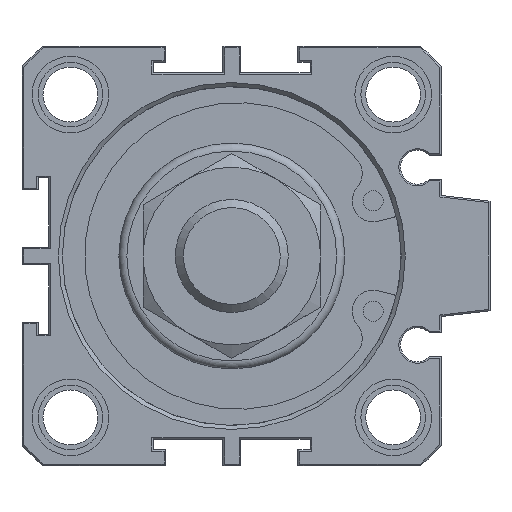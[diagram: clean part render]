
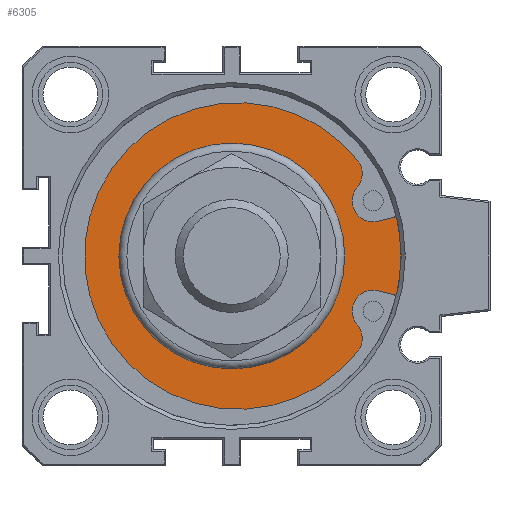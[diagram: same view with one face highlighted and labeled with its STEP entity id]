
A CAD part, front view. The second image highlights one B-rep face of the part: STEP entity #6305.
In plain terms, the highlighted planar face has unit normal (0, -1, 0).
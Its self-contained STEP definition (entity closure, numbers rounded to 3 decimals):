
#469=LINE('',#9123,#853);
#477=LINE('',#9149,#861);
#853=VECTOR('',#7829,1000.);
#861=VECTOR('',#7859,1000.);
#1938=ORIENTED_EDGE('',*,*,#2591,.F.);
#1939=ORIENTED_EDGE('',*,*,#2590,.F.);
#1940=ORIENTED_EDGE('',*,*,#2588,.T.);
#1941=ORIENTED_EDGE('',*,*,#2586,.T.);
#1942=ORIENTED_EDGE('',*,*,#2584,.T.);
#1943=ORIENTED_EDGE('',*,*,#2582,.T.);
#1944=ORIENTED_EDGE('',*,*,#2580,.T.);
#1945=ORIENTED_EDGE('',*,*,#2578,.T.);
#1946=ORIENTED_EDGE('',*,*,#2575,.T.);
#2575=EDGE_CURVE('',#2972,#2973,#469,.T.);
#2578=EDGE_CURVE('',#2974,#2972,#3129,.T.);
#2580=EDGE_CURVE('',#2975,#2974,#3130,.T.);
#2582=EDGE_CURVE('',#2976,#2975,#3131,.T.);
#2584=EDGE_CURVE('',#2977,#2976,#3132,.T.);
#2586=EDGE_CURVE('',#2978,#2977,#3133,.T.);
#2588=EDGE_CURVE('',#2979,#2978,#477,.T.);
#2590=EDGE_CURVE('',#2979,#2973,#3134,.T.);
#2591=EDGE_CURVE('',#2980,#2980,#3135,.F.);
#2972=VERTEX_POINT('',#9124);
#2973=VERTEX_POINT('',#9125);
#2974=VERTEX_POINT('',#9130);
#2975=VERTEX_POINT('',#9134);
#2976=VERTEX_POINT('',#9138);
#2977=VERTEX_POINT('',#9142);
#2978=VERTEX_POINT('',#9146);
#2979=VERTEX_POINT('',#9150);
#2980=VERTEX_POINT('',#9156);
#3129=CIRCLE('',#6694,2.61);
#3130=CIRCLE('',#6696,2.61);
#3131=CIRCLE('',#6698,19.);
#3132=CIRCLE('',#6700,2.61);
#3133=CIRCLE('',#6702,2.61);
#3134=CIRCLE('',#6705,22.25);
#3135=CIRCLE('',#6707,14.);
#3474=EDGE_LOOP('',(#1938));
#3475=EDGE_LOOP('',(#1939,#1940,#1941,#1942,#1943,#1944,#1945,#1946));
#3832=FACE_BOUND('',#3474,.T.);
#3833=FACE_BOUND('',#3475,.T.);
#4059=PLANE('',#6706);
#6305=ADVANCED_FACE('',(#3832,#3833),#4059,.F.);
#6694=AXIS2_PLACEMENT_3D('',#9129,#7834,#7835);
#6696=AXIS2_PLACEMENT_3D('',#9133,#7839,#7840);
#6698=AXIS2_PLACEMENT_3D('',#9137,#7844,#7845);
#6700=AXIS2_PLACEMENT_3D('',#9141,#7849,#7850);
#6702=AXIS2_PLACEMENT_3D('',#9145,#7854,#7855);
#6705=AXIS2_PLACEMENT_3D('',#9153,#7863,#7864);
#6706=AXIS2_PLACEMENT_3D('',#9154,#7865,#7866);
#6707=AXIS2_PLACEMENT_3D('',#9155,#7867,#7868);
#7829=DIRECTION('',(0.966,0.,-0.259));
#7834=DIRECTION('',(0.,1.,0.));
#7835=DIRECTION('',(1.,0.,0.));
#7839=DIRECTION('',(0.,-1.,0.));
#7840=DIRECTION('',(-1.,0.,0.));
#7844=DIRECTION('',(0.,-1.,0.));
#7845=DIRECTION('',(1.,0.,0.));
#7849=DIRECTION('',(0.,-1.,0.));
#7850=DIRECTION('',(-1.,0.,0.));
#7854=DIRECTION('',(0.,1.,0.));
#7855=DIRECTION('',(1.,0.,0.));
#7859=DIRECTION('',(-0.966,0.,-0.259));
#7863=DIRECTION('',(0.,1.,0.));
#7864=DIRECTION('',(-1.,0.,0.));
#7865=DIRECTION('',(0.,1.,0.));
#7866=DIRECTION('',(-1.,0.,0.));
#7867=DIRECTION('',(0.,1.,0.));
#7868=DIRECTION('',(-1.,0.,0.));
#9123=CARTESIAN_POINT('',(18.207,4.,-4.317));
#9124=CARTESIAN_POINT('',(18.207,4.,-4.317));
#9125=CARTESIAN_POINT('',(21.626,4.,-5.233));
#9129=CARTESIAN_POINT('',(17.531,4.,-6.838));
#9130=CARTESIAN_POINT('',(15.57,4.,-8.56));
#9133=CARTESIAN_POINT('',(13.565,4.,-10.23));
#9134=CARTESIAN_POINT('',(15.729,4.,-11.688));
#9137=CARTESIAN_POINT('',(0.75,4.,0.));
#9138=CARTESIAN_POINT('',(15.729,4.,11.688));
#9141=CARTESIAN_POINT('',(13.565,4.,10.23));
#9142=CARTESIAN_POINT('',(15.57,4.,8.56));
#9145=CARTESIAN_POINT('',(17.531,4.,6.838));
#9146=CARTESIAN_POINT('',(18.207,4.,4.317));
#9149=CARTESIAN_POINT('',(21.626,4.,5.233));
#9150=CARTESIAN_POINT('',(21.626,4.,5.233));
#9153=CARTESIAN_POINT('',(0.,4.,0.));
#9154=CARTESIAN_POINT('',(0.,4.,-3.4));
#9155=CARTESIAN_POINT('',(0.,4.,0.));
#9156=CARTESIAN_POINT('',(-14.,4.,0.));
